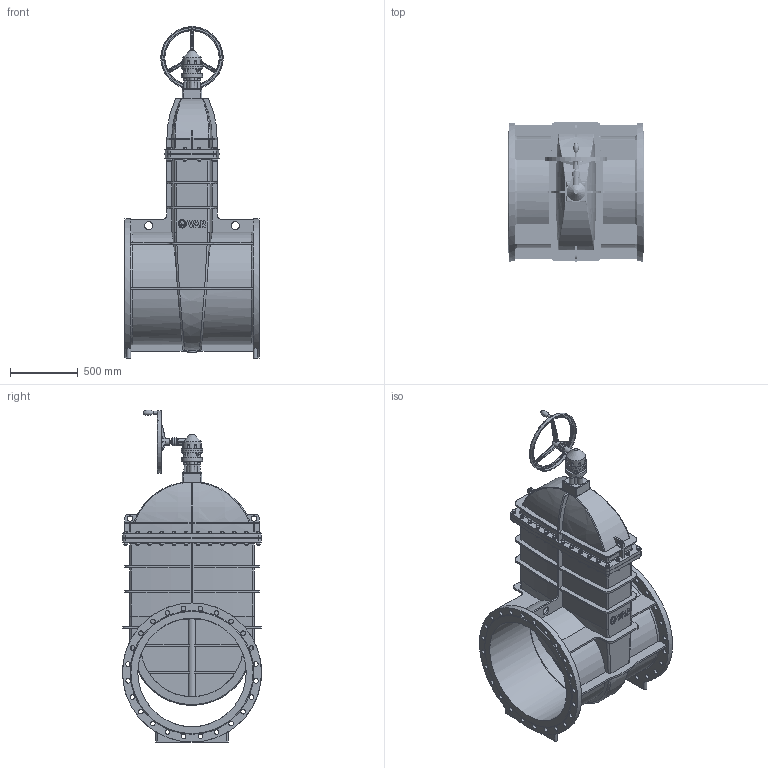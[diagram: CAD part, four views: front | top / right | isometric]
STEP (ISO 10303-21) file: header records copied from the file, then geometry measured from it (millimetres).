
FILE_DESCRIPTION(('STEP AP242'), '1');
FILE_NAME('青溻桄赅', '', ('UNSPECIFIED'), ('UNSPECIFIED'), 'C3D Converter', 'C3D Toolkit', '');
FILE_SCHEMA(('AP242_MANAGED_MODEL_BASED_3D_ENGINEERING_MIM_LF { 1 0 10303 442 1 1 4 }'));
Length unit declared in the file: millimetre
Assembly tree (195 placements, depth 2):
  (unnamed)
    (unnamed)
    (unnamed)
    (unnamed)
    (unnamed)  x2
    (unnamed)
    (unnamed)
    (unnamed)
    (unnamed)
    (unnamed)
    (unnamed)  x28
    (unnamed)  x56
    (unnamed)  x56
    (unnamed)  x28
    (unnamed)
    (unnamed)  x4
    (unnamed)  x12
Bounding box: 1000 x 1025 x 2447.32 mm (x, y, z)
Volume: 165093017.6 mm3; surface area: 17763178.1 mm2
Topology: 201 solids, 201 shells, 3210 faces, 7252 edges, 4552 vertices
Faces by surface type: plane 1719, cylinder 756, cone 408, extrusion 161, torus 84, bspline 82
Full cylindrical faces by diameter (mm): 3 x12, 4 x36, 6 x7, 7 x12, 8 x12, 12 x8, 13 x4, 13.835 x28, 16 x28, 17.5 x56, 18 x88, 20 x5, 24 x28, 28 x56, 30 x9, 34 x48, 40 x3, 50 x1, 58.667 x5, 60 x5, 61.586 x1, 122.754 x2, 138.859 x1, 154.965 x3, 400 x1, 410 x1, 450 x1, 460 x1, 757 x2, 800 x4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
Entity records: 69461 total; most frequent: CARTESIAN_POINT 30783, ORIENTED_EDGE 6238, DIRECTION 6123, EDGE_CURVE 3119, AXIS2_PLACEMENT_3D 2319, VERTEX_POINT 2202, EDGE_LOOP 2008, FACE_BOUND 1486
